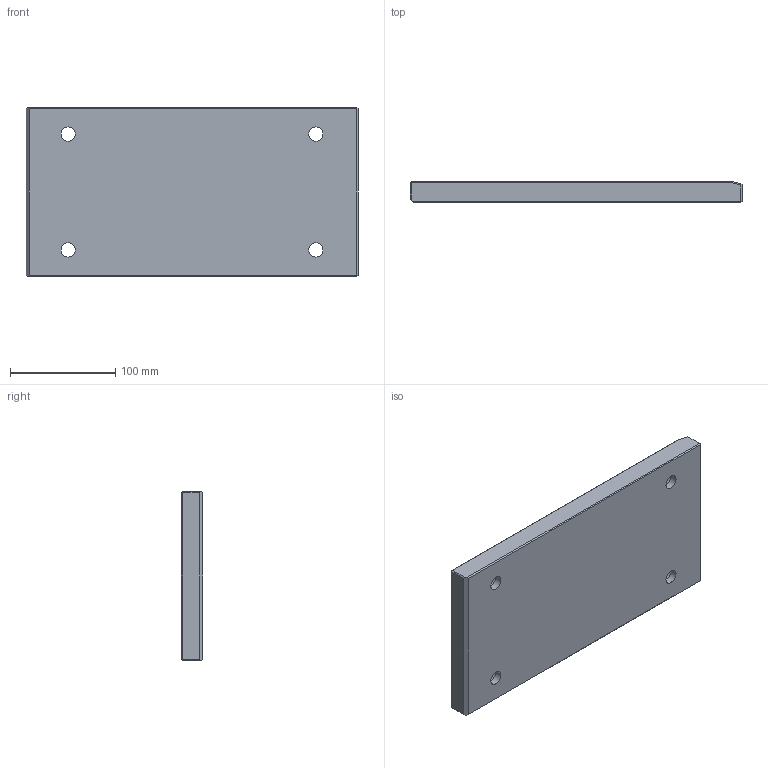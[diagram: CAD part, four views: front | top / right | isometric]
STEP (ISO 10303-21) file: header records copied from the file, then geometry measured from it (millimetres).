
FILE_DESCRIPTION(/* description */ ('Impex Ready, www.impex-ready.pl'),/* implementation_level */ '2;1');
FILE_NAME(/* name */ 'C:\Users\VIKKY\Nextcloud\SM\projekt 10 - części na stronę internetową\Pliki_3D_new\320 Płytki PG12\320 PG12_STEP\PG12.160315.ipt.step',/* time_stamp */ '2021-12-17T18:24:25+01:00',/* author */ ('SM'),/* organization */ (''),/* preprocessor_version */ 'ST-DEVELOPER v18.1',/* originating_system */ 'Autodesk Inventor 2021',/* authorisation */ '');
FILE_SCHEMA (('AUTOMOTIVE_DESIGN { 1 0 10303 214 3 1 1 }','FEATURE_BASED_PROCESS_PLANNING'));
Length unit declared in the file: millimetre
Products named in the file (1): PG12.160315
Bounding box: 315 x 20 x 160 mm (x, y, z)
Volume: 983840.3 mm3; surface area: 121310.3 mm2
Topology: 1 solids, 1 shells, 43 faces, 93 edges, 56 vertices
Faces by surface type: plane 28, cylinder 9, cone 6
Full cylindrical faces by diameter (mm): 13.5 x4, 20 x4
Entity records: 1269 total; most frequent: DIRECTION 209, CARTESIAN_POINT 193, ORIENTED_EDGE 186, EDGE_CURVE 93, AXIS2_PLACEMENT_3D 72, LINE 65, VECTOR 65, VERTEX_POINT 56
